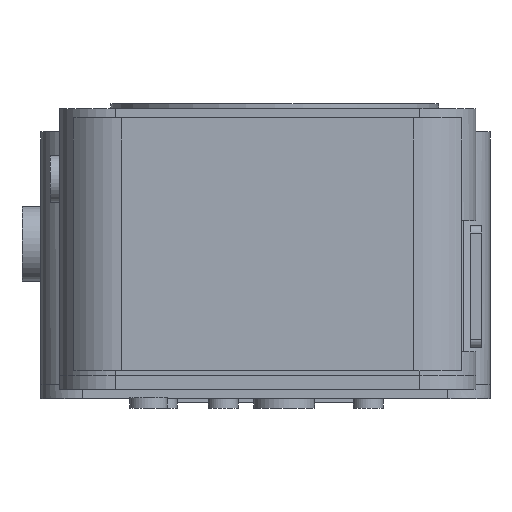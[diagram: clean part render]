
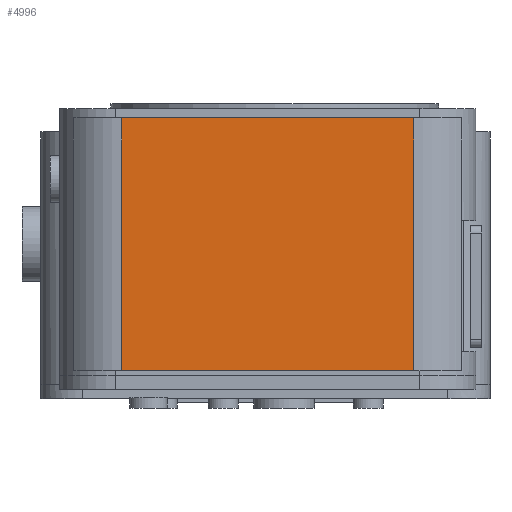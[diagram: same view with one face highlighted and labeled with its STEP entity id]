
A CAD part, left-side view. The second image highlights one B-rep face of the part: STEP entity #4996.
In plain terms, the highlighted planar face has unit normal (-1, 0, 0).
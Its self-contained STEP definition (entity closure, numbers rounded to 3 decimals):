
#4582 = PLANE('',#4583);
#4583 = AXIS2_PLACEMENT_3D('',#4584,#4585,#4586);
#4584 = CARTESIAN_POINT('',(-41.9,-42.,15.));
#4585 = DIRECTION('',(0.,0.,1.));
#4586 = DIRECTION('',(1.,0.,0.));
#4611 = VERTEX_POINT('',#4612);
#4612 = CARTESIAN_POINT('',(-84.1,-29.7,15.));
#4627 = CYLINDRICAL_SURFACE('',#4628,12.3);
#4628 = AXIS2_PLACEMENT_3D('',#4629,#4630,#4631);
#4629 = CARTESIAN_POINT('',(-71.8,-29.7,-39.));
#4630 = DIRECTION('',(-0.,-0.,1.));
#4631 = DIRECTION('',(-1.,-0.,-0.));
#4639 = EDGE_CURVE('',#4611,#4640,#4642,.T.);
#4640 = VERTEX_POINT('',#4641);
#4641 = CARTESIAN_POINT('',(-84.1,32.7,15.));
#4642 = SURFACE_CURVE('',#4643,(#4647,#4654),.PCURVE_S1.);
#4643 = LINE('',#4644,#4645);
#4644 = CARTESIAN_POINT('',(-84.1,-42.,15.));
#4645 = VECTOR('',#4646,1.);
#4646 = DIRECTION('',(-0.,1.,0.));
#4647 = PCURVE('',#4582,#4648);
#4648 = DEFINITIONAL_REPRESENTATION('',(#4649),#4653);
#4649 = LINE('',#4650,#4651);
#4650 = CARTESIAN_POINT('',(-42.2,0.));
#4651 = VECTOR('',#4652,1.);
#4652 = DIRECTION('',(-0.,1.));
#4653 = ( GEOMETRIC_REPRESENTATION_CONTEXT(2) 
PARAMETRIC_REPRESENTATION_CONTEXT() REPRESENTATION_CONTEXT('2D SPACE',''
  ) );
#4654 = PCURVE('',#4655,#4660);
#4655 = PLANE('',#4656);
#4656 = AXIS2_PLACEMENT_3D('',#4657,#4658,#4659);
#4657 = CARTESIAN_POINT('',(-84.1,-42.,-39.));
#4658 = DIRECTION('',(-1.,-0.,0.));
#4659 = DIRECTION('',(0.,0.,-1.));
#4660 = DEFINITIONAL_REPRESENTATION('',(#4661),#4665);
#4661 = LINE('',#4662,#4663);
#4662 = CARTESIAN_POINT('',(-54.,-0.));
#4663 = VECTOR('',#4664,1.);
#4664 = DIRECTION('',(-0.,-1.));
#4665 = ( GEOMETRIC_REPRESENTATION_CONTEXT(2) 
PARAMETRIC_REPRESENTATION_CONTEXT() REPRESENTATION_CONTEXT('2D SPACE',''
  ) );
#4688 = CYLINDRICAL_SURFACE('',#4689,12.3);
#4689 = AXIS2_PLACEMENT_3D('',#4690,#4691,#4692);
#4690 = CARTESIAN_POINT('',(-71.8,32.7,-39.));
#4691 = DIRECTION('',(-0.,-0.,1.));
#4692 = DIRECTION('',(-1.,-0.,-0.));
#4802 = PLANE('',#4803);
#4803 = AXIS2_PLACEMENT_3D('',#4804,#4805,#4806);
#4804 = CARTESIAN_POINT('',(-41.9,-42.,-39.));
#4805 = DIRECTION('',(0.,0.,1.));
#4806 = DIRECTION('',(1.,0.,0.));
#4946 = EDGE_CURVE('',#4947,#4640,#4949,.T.);
#4947 = VERTEX_POINT('',#4948);
#4948 = CARTESIAN_POINT('',(-84.1,32.7,-39.));
#4949 = SURFACE_CURVE('',#4950,(#4954,#4961),.PCURVE_S1.);
#4950 = LINE('',#4951,#4952);
#4951 = CARTESIAN_POINT('',(-84.1,32.7,-39.));
#4952 = VECTOR('',#4953,1.);
#4953 = DIRECTION('',(-0.,-0.,1.));
#4954 = PCURVE('',#4688,#4955);
#4955 = DEFINITIONAL_REPRESENTATION('',(#4956),#4960);
#4956 = LINE('',#4957,#4958);
#4957 = CARTESIAN_POINT('',(-0.,0.));
#4958 = VECTOR('',#4959,1.);
#4959 = DIRECTION('',(-0.,1.));
#4960 = ( GEOMETRIC_REPRESENTATION_CONTEXT(2) 
PARAMETRIC_REPRESENTATION_CONTEXT() REPRESENTATION_CONTEXT('2D SPACE',''
  ) );
#4961 = PCURVE('',#4655,#4962);
#4962 = DEFINITIONAL_REPRESENTATION('',(#4963),#4967);
#4963 = LINE('',#4964,#4965);
#4964 = CARTESIAN_POINT('',(-0.,-74.7));
#4965 = VECTOR('',#4966,1.);
#4966 = DIRECTION('',(-1.,-0.));
#4967 = ( GEOMETRIC_REPRESENTATION_CONTEXT(2) 
PARAMETRIC_REPRESENTATION_CONTEXT() REPRESENTATION_CONTEXT('2D SPACE',''
  ) );
#4996 = ADVANCED_FACE('',(#4997),#4655,.T.);
#4997 = FACE_BOUND('',#4998,.F.);
#4998 = EDGE_LOOP('',(#4999,#5000,#5023,#5044));
#4999 = ORIENTED_EDGE('',*,*,#4639,.F.);
#5000 = ORIENTED_EDGE('',*,*,#5001,.F.);
#5001 = EDGE_CURVE('',#5002,#4611,#5004,.T.);
#5002 = VERTEX_POINT('',#5003);
#5003 = CARTESIAN_POINT('',(-84.1,-29.7,-39.));
#5004 = SURFACE_CURVE('',#5005,(#5009,#5016),.PCURVE_S1.);
#5005 = LINE('',#5006,#5007);
#5006 = CARTESIAN_POINT('',(-84.1,-29.7,-39.));
#5007 = VECTOR('',#5008,1.);
#5008 = DIRECTION('',(-0.,-0.,1.));
#5009 = PCURVE('',#4655,#5010);
#5010 = DEFINITIONAL_REPRESENTATION('',(#5011),#5015);
#5011 = LINE('',#5012,#5013);
#5012 = CARTESIAN_POINT('',(-0.,-12.3));
#5013 = VECTOR('',#5014,1.);
#5014 = DIRECTION('',(-1.,-0.));
#5015 = ( GEOMETRIC_REPRESENTATION_CONTEXT(2) 
PARAMETRIC_REPRESENTATION_CONTEXT() REPRESENTATION_CONTEXT('2D SPACE',''
  ) );
#5016 = PCURVE('',#4627,#5017);
#5017 = DEFINITIONAL_REPRESENTATION('',(#5018),#5022);
#5018 = LINE('',#5019,#5020);
#5019 = CARTESIAN_POINT('',(0.,0.));
#5020 = VECTOR('',#5021,1.);
#5021 = DIRECTION('',(0.,1.));
#5022 = ( GEOMETRIC_REPRESENTATION_CONTEXT(2) 
PARAMETRIC_REPRESENTATION_CONTEXT() REPRESENTATION_CONTEXT('2D SPACE',''
  ) );
#5023 = ORIENTED_EDGE('',*,*,#5024,.T.);
#5024 = EDGE_CURVE('',#5002,#4947,#5025,.T.);
#5025 = SURFACE_CURVE('',#5026,(#5030,#5037),.PCURVE_S1.);
#5026 = LINE('',#5027,#5028);
#5027 = CARTESIAN_POINT('',(-84.1,-42.,-39.));
#5028 = VECTOR('',#5029,1.);
#5029 = DIRECTION('',(-0.,1.,0.));
#5030 = PCURVE('',#4655,#5031);
#5031 = DEFINITIONAL_REPRESENTATION('',(#5032),#5036);
#5032 = LINE('',#5033,#5034);
#5033 = CARTESIAN_POINT('',(-0.,-0.));
#5034 = VECTOR('',#5035,1.);
#5035 = DIRECTION('',(-0.,-1.));
#5036 = ( GEOMETRIC_REPRESENTATION_CONTEXT(2) 
PARAMETRIC_REPRESENTATION_CONTEXT() REPRESENTATION_CONTEXT('2D SPACE',''
  ) );
#5037 = PCURVE('',#4802,#5038);
#5038 = DEFINITIONAL_REPRESENTATION('',(#5039),#5043);
#5039 = LINE('',#5040,#5041);
#5040 = CARTESIAN_POINT('',(-42.2,0.));
#5041 = VECTOR('',#5042,1.);
#5042 = DIRECTION('',(-0.,1.));
#5043 = ( GEOMETRIC_REPRESENTATION_CONTEXT(2) 
PARAMETRIC_REPRESENTATION_CONTEXT() REPRESENTATION_CONTEXT('2D SPACE',''
  ) );
#5044 = ORIENTED_EDGE('',*,*,#4946,.T.);
